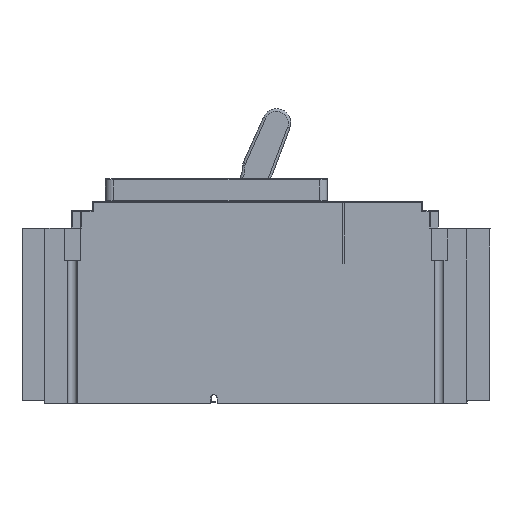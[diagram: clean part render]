
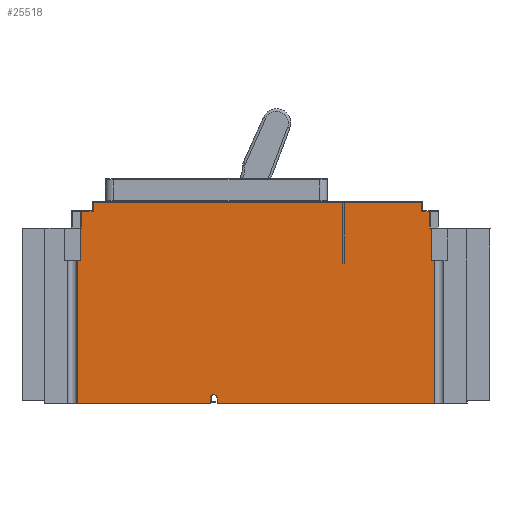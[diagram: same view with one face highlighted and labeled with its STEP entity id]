
A CAD part, left-side view. The second image highlights one B-rep face of the part: STEP entity #25518.
In plain terms, the highlighted planar face has unit normal (-1, 0, 0).
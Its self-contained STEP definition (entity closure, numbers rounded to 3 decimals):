
#94=DIRECTION('',(0.,1.,0.));
#95=VECTOR('',#94,1.128);
#96=CARTESIAN_POINT('',(0.,31.991,95.5));
#97=LINE('',#96,#95);
#3317=DIRECTION('',(0.,1.,0.));
#3318=VECTOR('',#3317,178.882);
#3319=CARTESIAN_POINT('',(0.,37.334,109.5));
#3320=LINE('',#3319,#3318);
#3957=DIRECTION('',(0.,0.,1.));
#3958=VECTOR('',#3957,9.);
#3959=CARTESIAN_POINT('',(0.,33.119,95.5));
#3960=LINE('',#3959,#3958);
#3965=DIRECTION('',(0.,0.,1.));
#3966=VECTOR('',#3965,2.918);
#3967=CARTESIAN_POINT('',(0.,148.75,0.));
#3968=LINE('',#3967,#3966);
#3969=CARTESIAN_POINT('',(0.,150.5,
2.918));
#3970=DIRECTION('',(-1.,0.,0.));
#3971=DIRECTION('',(0.,-1.,0.));
#3972=AXIS2_PLACEMENT_3D('',#3969,#3970,#3971);
#3974=CARTESIAN_POINT('',(0.,150.5,
2.918));
#3975=DIRECTION('',(-1.,0.,0.));
#3976=DIRECTION('',(0.,0.,1.));
#3977=AXIS2_PLACEMENT_3D('',#3974,#3975,#3976);
#3979=DIRECTION('',(0.,0.,1.));
#3980=VECTOR('',#3979,78.);
#3981=CARTESIAN_POINT('',(0.,224.963,0.));
#3982=LINE('',#3981,#3980);
#3983=DIRECTION('',(0.,-1.,0.));
#3984=VECTOR('',#3983,1.955);
#3985=CARTESIAN_POINT('',(0.,224.963,78.));
#3986=LINE('',#3985,#3984);
#3987=DIRECTION('',(0.,0.,1.));
#3988=VECTOR('',#3987,17.5);
#3989=CARTESIAN_POINT('',(0.,223.009,78.));
#3990=LINE('',#3989,#3988);
#4004=DIRECTION('',(0.,0.,1.));
#4005=VECTOR('',#4004,17.5);
#4006=CARTESIAN_POINT('',(0.,31.991,78.));
#4007=LINE('',#4006,#4005);
#4528=DIRECTION('',(0.,-1.,0.));
#4529=VECTOR('',#4528,118.583);
#4530=CARTESIAN_POINT('',(0.,148.75,0.));
#4531=LINE('',#4530,#4529);
#5014=DIRECTION('',(0.,-1.,0.));
#5015=VECTOR('',#5014,72.713);
#5016=CARTESIAN_POINT('',(0.,224.963,0.));
#5017=LINE('',#5016,#5015);
#5373=DIRECTION('',(0.,0.,1.));
#5374=VECTOR('',#5373,2.918);
#5375=CARTESIAN_POINT('',(0.,152.25,0.));
#5376=LINE('',#5375,#5374);
#6287=DIRECTION('',(0.,1.,0.));
#6288=VECTOR('',#6287,6.441);
#6289=CARTESIAN_POINT('',(0.,216.216,104.5));
#6290=LINE('',#6289,#6288);
#6304=DIRECTION('',(0.,0.,-1.));
#6305=VECTOR('',#6304,5.);
#6306=CARTESIAN_POINT('',(0.,216.216,
109.5));
#6307=LINE('',#6306,#6305);
#6547=DIRECTION('',(0.,0.,-1.));
#6548=VECTOR('',#6547,9.);
#6549=CARTESIAN_POINT('',(0.,222.657,104.5));
#6550=LINE('',#6549,#6548);
#6568=DIRECTION('',(0.,1.,0.));
#6569=VECTOR('',#6568,0.351);
#6570=CARTESIAN_POINT('',(0.,222.657,95.5));
#6571=LINE('',#6570,#6569);
#12459=DIRECTION('',(0.,0.,1.));
#12460=VECTOR('',#12459,78.);
#12461=CARTESIAN_POINT('',(0.,30.167,0.));
#12462=LINE('',#12461,#12460);
#12493=DIRECTION('',(0.,1.,0.));
#12494=VECTOR('',#12493,1.825);
#12495=CARTESIAN_POINT('',(0.,30.167,78.));
#12496=LINE('',#12495,#12494);
#14198=DIRECTION('',(0.,0.,1.));
#14199=VECTOR('',#14198,5.);
#14200=CARTESIAN_POINT('',(0.,37.334,104.5));
#14201=LINE('',#14200,#14199);
#14218=DIRECTION('',(0.,1.,0.));
#14219=VECTOR('',#14218,4.214);
#14220=CARTESIAN_POINT('',(0.,33.119,104.5));
#14221=LINE('',#14220,#14219);
#15472=CARTESIAN_POINT('',(0.,31.991,95.5));
#15473=VERTEX_POINT('',#15472);
#15474=CARTESIAN_POINT('',(0.,33.119,95.5));
#15475=VERTEX_POINT('',#15474);
#15848=CARTESIAN_POINT('',(0.,148.75,0.));
#15849=VERTEX_POINT('',#15848);
#15850=CARTESIAN_POINT('',(0.,30.167,0.));
#15851=VERTEX_POINT('',#15850);
#16072=CARTESIAN_POINT('',(0.,224.963,0.));
#16073=VERTEX_POINT('',#16072);
#16074=CARTESIAN_POINT('',(0.,152.25,0.));
#16075=VERTEX_POINT('',#16074);
#16251=CARTESIAN_POINT('',(0.,152.25,
2.918));
#16252=VERTEX_POINT('',#16251);
#16253=CARTESIAN_POINT('',(0.,33.119,104.5));
#16254=VERTEX_POINT('',#16253);
#16255=CARTESIAN_POINT('',(0.,31.991,78.));
#16256=VERTEX_POINT('',#16255);
#16257=CARTESIAN_POINT('',(0.,30.167,78.));
#16258=VERTEX_POINT('',#16257);
#16259=CARTESIAN_POINT('',(0.,148.75,
2.918));
#16260=VERTEX_POINT('',#16259);
#16261=CARTESIAN_POINT('',(0.,150.5,
4.668));
#16262=VERTEX_POINT('',#16261);
#16263=CARTESIAN_POINT('',(0.,224.963,78.));
#16264=VERTEX_POINT('',#16263);
#16265=CARTESIAN_POINT('',(0.,223.009,78.));
#16266=VERTEX_POINT('',#16265);
#16267=CARTESIAN_POINT('',(0.,223.009,95.5));
#16268=VERTEX_POINT('',#16267);
#16269=CARTESIAN_POINT('',(0.,222.657,95.5));
#16270=VERTEX_POINT('',#16269);
#16271=CARTESIAN_POINT('',(0.,222.657,104.5));
#16272=VERTEX_POINT('',#16271);
#16273=CARTESIAN_POINT('',(0.,216.216,104.5));
#16274=VERTEX_POINT('',#16273);
#16275=CARTESIAN_POINT('',(0.,216.216,
109.5));
#16276=VERTEX_POINT('',#16275);
#16277=CARTESIAN_POINT('',(0.,37.334,109.5));
#16278=VERTEX_POINT('',#16277);
#16279=CARTESIAN_POINT('',(0.,37.334,104.5));
#16280=VERTEX_POINT('',#16279);
#25472=CARTESIAN_POINT('',(0.,224.963,0.));
#25473=DIRECTION('',(-1.,0.,0.));
#25474=DIRECTION('',(0.,-1.,0.));
#25475=AXIS2_PLACEMENT_3D('',#25472,#25473,#25474);
#25476=PLANE('',#25475);
#25477=ORIENTED_EDGE('',*,*,#25463,.F.);
#25478=ORIENTED_EDGE('',*,*,#20082,.F.);
#25480=ORIENTED_EDGE('',*,*,#25479,.F.);
#25482=ORIENTED_EDGE('',*,*,#25481,.F.);
#25484=ORIENTED_EDGE('',*,*,#25483,.F.);
#25486=ORIENTED_EDGE('',*,*,#25485,.F.);
#25488=ORIENTED_EDGE('',*,*,#25487,.T.);
#25490=ORIENTED_EDGE('',*,*,#25489,.T.);
#25492=ORIENTED_EDGE('',*,*,#25491,.T.);
#25494=ORIENTED_EDGE('',*,*,#25493,.F.);
#25496=ORIENTED_EDGE('',*,*,#25495,.F.);
#25498=ORIENTED_EDGE('',*,*,#25497,.T.);
#25500=ORIENTED_EDGE('',*,*,#25499,.T.);
#25502=ORIENTED_EDGE('',*,*,#25501,.T.);
#25504=ORIENTED_EDGE('',*,*,#25503,.F.);
#25506=ORIENTED_EDGE('',*,*,#25505,.F.);
#25508=ORIENTED_EDGE('',*,*,#25507,.F.);
#25510=ORIENTED_EDGE('',*,*,#25509,.F.);
#25511=ORIENTED_EDGE('',*,*,#24651,.F.);
#25513=ORIENTED_EDGE('',*,*,#25512,.F.);
#25515=ORIENTED_EDGE('',*,*,#25514,.F.);
#25516=EDGE_LOOP('',(#25477,#25478,#25480,#25482,#25484,#25486,#25488,#25490,
#25492,#25494,#25496,#25498,#25500,#25502,#25504,#25506,#25508,#25510,#25511,
#25513,#25515));
#25517=FACE_OUTER_BOUND('',#25516,.F.);
#25518=ADVANCED_FACE('',(#25517),#25476,.T.);
#3973=CIRCLE('',#3972,1.75);
#3978=CIRCLE('',#3977,1.75);
#20082=EDGE_CURVE('',#15473,#15475,#97,.T.);
#24651=EDGE_CURVE('',#16278,#16276,#3320,.T.);
#25463=EDGE_CURVE('',#15475,#16254,#3960,.T.);
#25479=EDGE_CURVE('',#16256,#15473,#4007,.T.);
#25481=EDGE_CURVE('',#16258,#16256,#12496,.T.);
#25483=EDGE_CURVE('',#15851,#16258,#12462,.T.);
#25485=EDGE_CURVE('',#15849,#15851,#4531,.T.);
#25487=EDGE_CURVE('',#15849,#16260,#3968,.T.);
#25489=EDGE_CURVE('',#16260,#16262,#3973,.T.);
#25491=EDGE_CURVE('',#16262,#16252,#3978,.T.);
#25493=EDGE_CURVE('',#16075,#16252,#5376,.T.);
#25495=EDGE_CURVE('',#16073,#16075,#5017,.T.);
#25497=EDGE_CURVE('',#16073,#16264,#3982,.T.);
#25499=EDGE_CURVE('',#16264,#16266,#3986,.T.);
#25501=EDGE_CURVE('',#16266,#16268,#3990,.T.);
#25503=EDGE_CURVE('',#16270,#16268,#6571,.T.);
#25505=EDGE_CURVE('',#16272,#16270,#6550,.T.);
#25507=EDGE_CURVE('',#16274,#16272,#6290,.T.);
#25509=EDGE_CURVE('',#16276,#16274,#6307,.T.);
#25512=EDGE_CURVE('',#16280,#16278,#14201,.T.);
#25514=EDGE_CURVE('',#16254,#16280,#14221,.T.);
